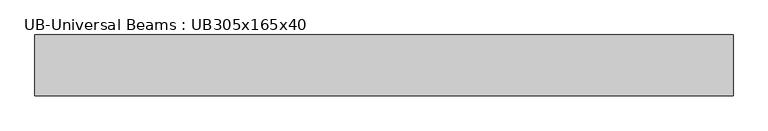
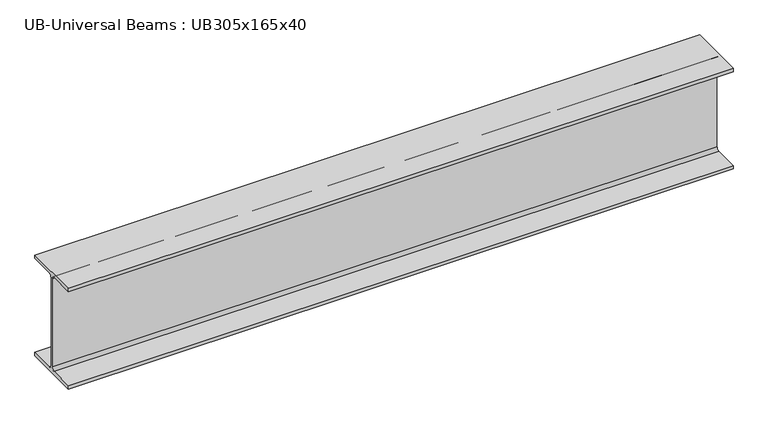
"""IFC4 building model written with IfcOpenShell, lengths in millimetres: beam geometry, UB-Universal Beams : UB305x165x40."""

from ifc_helpers import new_model, si_unit, point, frame, frame_2d, origin, place, context, project, spatial, polyline, circle_curve, trimmed, segment, composite_curve, outline, extrude, source, transform, mapped, element, save


def ub_universal_beams_ub305x165x40_71dfa851(model_context):
    return source(origin(), model_context, "Body", "SweptSolid", [
        extrude(outline(composite_curve([segment(polyline([(82.5, -141.5), (82.5, -151.7), (-82.5, -151.7), (-82.5, -141.5), (-11.9, -141.5)]), True, "CONTINUOUS"), segment(trimmed(circle_curve(frame_2d((-11.9, -132.6)), 8.9), [point((-11.9, -141.5))], [point((-3.0, -132.6))], True, "CARTESIAN"), True, "CONTINUOUS"), segment(polyline([(-3.0, -132.6), (-3.0, 132.6)]), True, "CONTINUOUS"), segment(trimmed(circle_curve(frame_2d((-11.9, 132.6)), 8.9), [point((-3.0, 132.6))], [point((-11.9, 141.5))], True, "CARTESIAN"), True, "CONTINUOUS"), segment(polyline([(-11.9, 141.5), (-82.5, 141.5), (-82.5, 151.7), (82.5, 151.7), (82.5, 141.5), (11.9, 141.5)]), True, "CONTINUOUS"), segment(trimmed(circle_curve(frame_2d((11.9, 132.6)), 8.9), [point((11.9, 141.5))], [point((3.0, 132.6))], True, "CARTESIAN"), True, "CONTINUOUS"), segment(polyline([(3.0, 132.6), (3.0, -132.6)]), True, "CONTINUOUS"), segment(trimmed(circle_curve(frame_2d((11.9, -132.6)), 8.9), [point((3.0, -132.6))], [point((11.9, -141.5))], True, "CARTESIAN"), True, "CONTINUOUS"), segment(polyline([(11.9, -141.5), (82.5, -141.5)]), True, "CONTINUOUS")], self_intersect=False)), frame((-744.95, 0.0, 0.0), z_axis=(1.0, 0.0, 0.0), x_axis=(0.0, 1.0, 0.0)), (0.0, 0.0, 1.0), 1892.6),
    ])


if __name__ == "__main__":
    model = new_model("IFC4")
    model_context = context("Model", 3, world=origin())
    ifc_project = project(units=[si_unit("LENGTHUNIT", "METRE", prefix="MILLI")], contexts=[model_context])
    site = spatial("IfcSite", under=ifc_project)
    building = spatial("IfcBuilding", under=site)
    placement = place(None, origin())
    ub_universal_beams_ub305x165x40_shape = ub_universal_beams_ub305x165x40_71dfa851(model_context)
    element("IfcBeam", 1, ObjectType="UB-Universal Beams : UB305x165x40", at=placement, inside=building, context=model_context, shape_type="MappedRepresentation", body=[
        mapped(ub_universal_beams_ub305x165x40_shape, transform((0.0, 0.0, 0.0), x_axis=(1.0, 0.0, 0.0), y_axis=(0.0, 1.0, 0.0), z_axis=(0.0, 0.0, 1.0))),
    ])
    save(model, "model.ifc")
